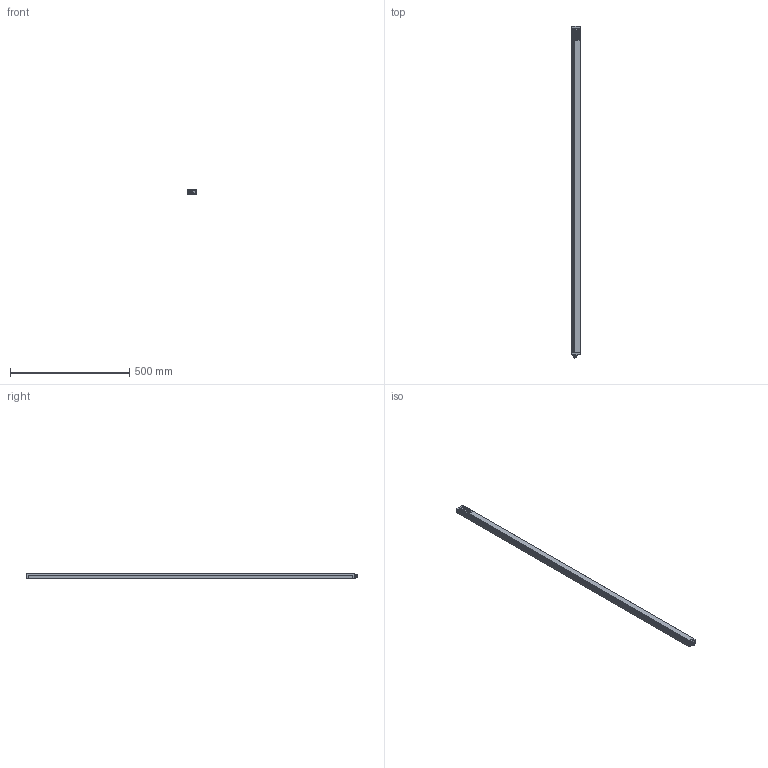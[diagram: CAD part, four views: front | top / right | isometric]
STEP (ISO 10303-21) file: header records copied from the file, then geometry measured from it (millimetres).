
FILE_DESCRIPTION(/* description */ (''),/* implementation_level */ '2;1');
FILE_NAME(/* name */ 'C:\Users\andre\SynologyDrive\Optoscan\Libreria Componenti\00 - Barriere\Barriera sorgente\Argo_1360_TX.stp',/* time_stamp */ '2021-04-22T10:24:24+02:00',/* author */ ('andre'),/* organization */ (''),/* preprocessor_version */ 'ST-DEVELOPER v18',/* originating_system */ 'Autodesk Inventor 2020',/* authorisation */ '');
FILE_SCHEMA (('AUTOMOTIVE_DESIGN { 1 0 10303 214 3 1 1 }'));
Length unit declared in the file: millimetre
Products named in the file (1): Argo_1360_TX
Bounding box: 40.5 x 1393.3 x 20.75 mm (x, y, z)
Volume: 276176.9 mm3; surface area: 361740.1 mm2
Topology: 1 solids, 1 shells, 696 faces, 1911 edges, 1225 vertices
Faces by surface type: plane 321, cylinder 195, bspline 94, torus 72, cone 8, sphere 6
Full cylindrical faces by diameter (mm): 1 x4, 2.459 x4, 2.5 x4, 3 x4, 3.5 x4, 5.5 x4, 8 x1, 10.5 x2, 11.75 x9, 15.7 x1, 17.5 x1
Entity records: 30770 total; most frequent: CARTESIAN_POINT 12670, ORIENTED_EDGE 3806, DIRECTION 3415, EDGE_CURVE 1903, VERTEX_POINT 1225, AXIS2_PLACEMENT_3D 1193, LINE 1029, VECTOR 1029
